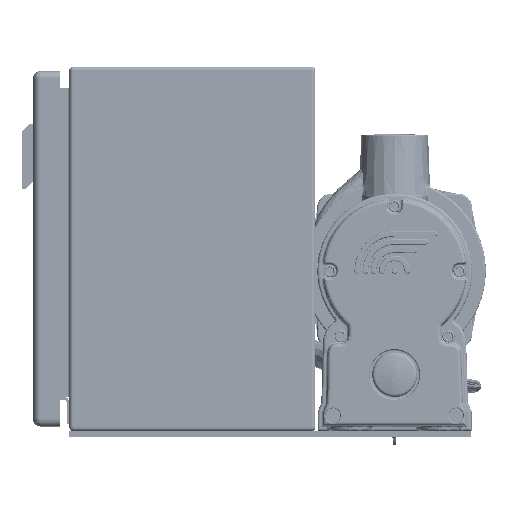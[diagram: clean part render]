
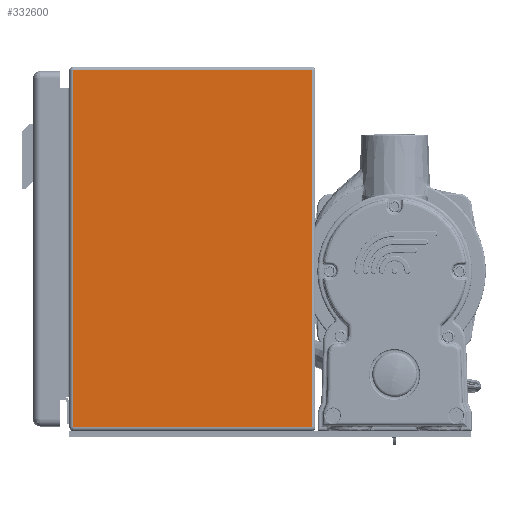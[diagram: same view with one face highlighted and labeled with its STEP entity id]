
A CAD part, left-side view. The second image highlights one B-rep face of the part: STEP entity #332600.
In plain terms, the highlighted planar face has unit normal (-1, 0, 0) as drawn and (0, 1, 0) by its records, which use the part's own axes.
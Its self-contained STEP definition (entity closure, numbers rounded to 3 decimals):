
#11751 = FACE_OUTER_BOUND ( 'NONE', #153850, .T. ) ;
#14004 = VECTOR ( 'NONE', #127317, 1000. ) ;
#20718 = CARTESIAN_POINT ( 'NONE',  ( -97.95, 300., 55.45 ) ) ;
#29704 = AXIS2_PLACEMENT_3D ( 'NONE', #242659, #206918, #171225 ) ;
#41861 = VECTOR ( 'NONE', #178175, 1000. ) ;
#61421 = VERTEX_POINT ( 'NONE', #251958 ) ;
#98731 = VERTEX_POINT ( 'NONE', #303817 ) ;
#127317 = DIRECTION ( 'NONE',  ( -1., 0., 0. ) ) ;
#129288 = VERTEX_POINT ( 'NONE', #20718 ) ;
#129892 = EDGE_CURVE ( 'NONE', #129288, #324460, #249680, .T. ) ;
#153850 = EDGE_LOOP ( 'NONE', ( #197829, #183026, #170608, #187876 ) ) ;
#163207 = CARTESIAN_POINT ( 'NONE',  ( 97.95, 300., 55.45 ) ) ;
#170608 = ORIENTED_EDGE ( 'NONE', *, *, #129892, .F. ) ;
#171225 = DIRECTION ( 'NONE',  ( 0., 0., 1. ) ) ;
#178175 = DIRECTION ( 'NONE',  ( 0., 0., -1. ) ) ;
#183026 = ORIENTED_EDGE ( 'NONE', *, *, #216326, .F. ) ;
#187876 = ORIENTED_EDGE ( 'NONE', *, *, #321939, .F. ) ;
#192172 = CARTESIAN_POINT ( 'NONE',  ( -97.95, 300., -75.45 ) ) ;
#197829 = ORIENTED_EDGE ( 'NONE', *, *, #280096, .F. ) ;
#198556 = DIRECTION ( 'NONE',  ( 0., 0., 1. ) ) ;
#198936 = LINE ( 'NONE', #163207, #14004 ) ;
#199176 = VECTOR ( 'NONE', #253110, 1000. ) ;
#206918 = DIRECTION ( 'NONE',  ( 0., 1., 0. ) ) ;
#213855 = CARTESIAN_POINT ( 'NONE',  ( -97.95, 300., -10. ) ) ;
#216326 = EDGE_CURVE ( 'NONE', #324460, #61421, #324630, .T. ) ;
#234242 = CARTESIAN_POINT ( 'NONE',  ( 97.95, 300., -10. ) ) ;
#236158 = VECTOR ( 'NONE', #198556, 1000. ) ;
#242659 = CARTESIAN_POINT ( 'NONE',  ( 97.95, 300., -75.45 ) ) ;
#249680 = LINE ( 'NONE', #213855, #41861 ) ;
#251958 = CARTESIAN_POINT ( 'NONE',  ( 97.95, 300., -75.45 ) ) ;
#253110 = DIRECTION ( 'NONE',  ( 1., 0., 0. ) ) ;
#270029 = LINE ( 'NONE', #234242, #236158 ) ;
#278492 = PLANE ( 'NONE',  #29704 ) ;
#280096 = EDGE_CURVE ( 'NONE', #61421, #98731, #270029, .T. ) ;
#288842 = CARTESIAN_POINT ( 'NONE',  ( 97.95, 300., -75.45 ) ) ;
#303817 = CARTESIAN_POINT ( 'NONE',  ( 97.95, 300., 55.45 ) ) ;
#321939 = EDGE_CURVE ( 'NONE', #98731, #129288, #198936, .T. ) ;
#324460 = VERTEX_POINT ( 'NONE', #192172 ) ;
#324630 = LINE ( 'NONE', #288842, #199176 ) ;
#332600 = ADVANCED_FACE ( 'NONE', ( #11751 ), #278492, .T. ) ;
